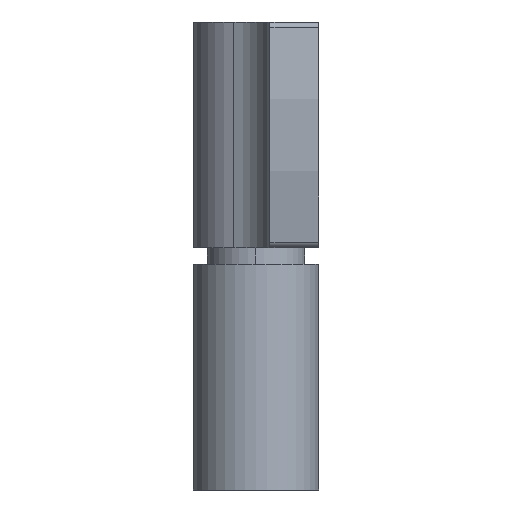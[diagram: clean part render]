
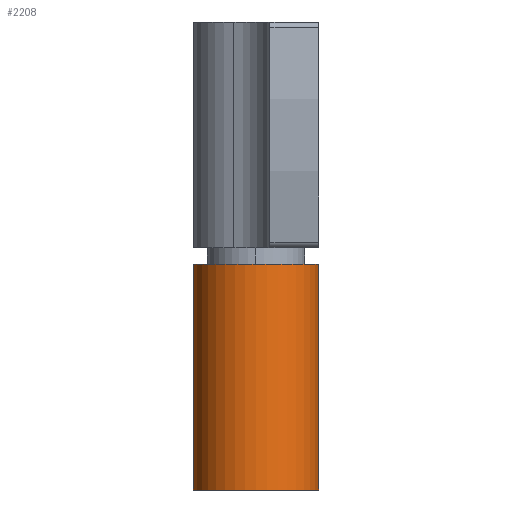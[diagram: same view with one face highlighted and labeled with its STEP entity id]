
A CAD part, left-side view. The second image highlights one B-rep face of the part: STEP entity #2208.
In plain terms, the highlighted cylindrical face has radius 4.5 mm (diameter 9 mm), a partial arc.
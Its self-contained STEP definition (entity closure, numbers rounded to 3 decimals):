
#81 = VECTOR ( 'NONE', #308, 1000. ) ;
#228 = DIRECTION ( 'NONE',  ( 0., 0., 1. ) ) ;
#245 = LINE ( 'NONE', #2303, #423 ) ;
#308 = DIRECTION ( 'NONE',  ( 0., 0., 1. ) ) ;
#328 = ORIENTED_EDGE ( 'NONE', *, *, #2610, .T. ) ;
#332 = CARTESIAN_POINT ( 'NONE',  ( 0., 0., -17.4 ) ) ;
#418 = DIRECTION ( 'NONE',  ( -1., 0., 0. ) ) ;
#423 = VECTOR ( 'NONE', #1437, 1000. ) ;
#535 = CARTESIAN_POINT ( 'NONE',  ( 4.21, 6.088, -17.4 ) ) ;
#610 = DIRECTION ( 'NONE',  ( -1., 0., 0. ) ) ;
#815 = CYLINDRICAL_SURFACE ( 'NONE', #1048, 4.5 ) ;
#944 = LINE ( 'NONE', #332, #81 ) ;
#1048 = AXIS2_PLACEMENT_3D ( 'NONE', #2211, #228, #1969 ) ;
#1050 = FACE_OUTER_BOUND ( 'NONE', #3730, .T. ) ;
#1207 = VERTEX_POINT ( 'NONE', #535 ) ;
#1271 = CARTESIAN_POINT ( 'NONE',  ( 0., 4.5, -1.2 ) ) ;
#1406 = CARTESIAN_POINT ( 'NONE',  ( 0., 4.5, -17.4 ) ) ;
#1437 = DIRECTION ( 'NONE',  ( 0., 0., 1. ) ) ;
#1519 = CIRCLE ( 'NONE', #2259, 4.5 ) ;
#1876 = DIRECTION ( 'NONE',  ( 0., 0., -1. ) ) ;
#1905 = EDGE_CURVE ( 'NONE', #2750, #3511, #1519, .T. ) ;
#1969 = DIRECTION ( 'NONE',  ( 1., 0., 0. ) ) ;
#2168 = VERTEX_POINT ( 'NONE', #3476 ) ;
#2208 = ADVANCED_FACE ( 'NONE', ( #1050 ), #815, .T. ) ;
#2211 = CARTESIAN_POINT ( 'NONE',  ( 0., 4.5, -17.4 ) ) ;
#2217 = EDGE_CURVE ( 'NONE', #2168, #1207, #2748, .T. ) ;
#2259 = AXIS2_PLACEMENT_3D ( 'NONE', #1271, #1876, #418 ) ;
#2303 = CARTESIAN_POINT ( 'NONE',  ( 4.21, 6.088, -17.4 ) ) ;
#2306 = EDGE_CURVE ( 'NONE', #1207, #3511, #245, .T. ) ;
#2610 = EDGE_CURVE ( 'NONE', #2168, #2750, #944, .T. ) ;
#2748 = CIRCLE ( 'NONE', #3692, 4.5 ) ;
#2750 = VERTEX_POINT ( 'NONE', #3135 ) ;
#2778 = DIRECTION ( 'NONE',  ( 0., 0., -1. ) ) ;
#2946 = CARTESIAN_POINT ( 'NONE',  ( 4.21, 6.088, -1.2 ) ) ;
#3107 = ORIENTED_EDGE ( 'NONE', *, *, #2217, .F. ) ;
#3135 = CARTESIAN_POINT ( 'NONE',  ( 0., 0., -1.2 ) ) ;
#3232 = ORIENTED_EDGE ( 'NONE', *, *, #2306, .F. ) ;
#3476 = CARTESIAN_POINT ( 'NONE',  ( 0., 0., -17.4 ) ) ;
#3511 = VERTEX_POINT ( 'NONE', #2946 ) ;
#3692 = AXIS2_PLACEMENT_3D ( 'NONE', #1406, #2778, #610 ) ;
#3716 = ORIENTED_EDGE ( 'NONE', *, *, #1905, .T. ) ;
#3730 = EDGE_LOOP ( 'NONE', ( #3716, #3232, #3107, #328 ) ) ;
